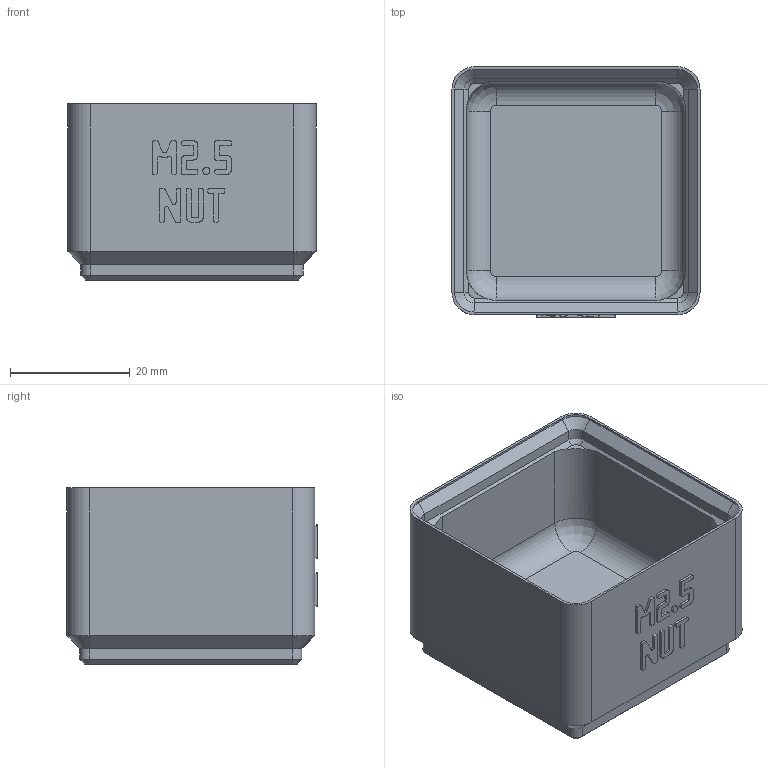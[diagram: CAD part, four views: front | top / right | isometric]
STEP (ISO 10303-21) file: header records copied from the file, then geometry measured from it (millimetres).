
FILE_DESCRIPTION(('Open CASCADE Model'),'2;1');
FILE_NAME('Open CASCADE Shape Model','2026-11-03T10:23:46',('Author'),( 'Open CASCADE'),'Open CASCADE STEP processor 8.0','build123d', 'Unknown');
FILE_SCHEMA(('AUTOMOTIVE_DESIGN { 1 0 10303 214 1 1 1 1 }'));
Length unit declared in the file: millimetre
Products named in the file (1): COMPOUND
Bounding box: 41.5 x 41.9 x 29.5 mm (x, y, z)
Volume: 18940.1 mm3; surface area: 10644.5 mm2
Topology: 1 solids, 1 shells, 695 faces, 1999 edges, 1314 vertices
Faces by surface type: plane 651, cylinder 24, cone 16, revolution 4
Entity records: 46980 total; most frequent: CARTESIAN_POINT 9565, DIRECTION 6035, LINE 4491, VECTOR 4491, ORIENTED_EDGE 3998, PCURVE 3998, DEFINITIONAL_REPRESENTATION 3998, EDGE_CURVE 1999
